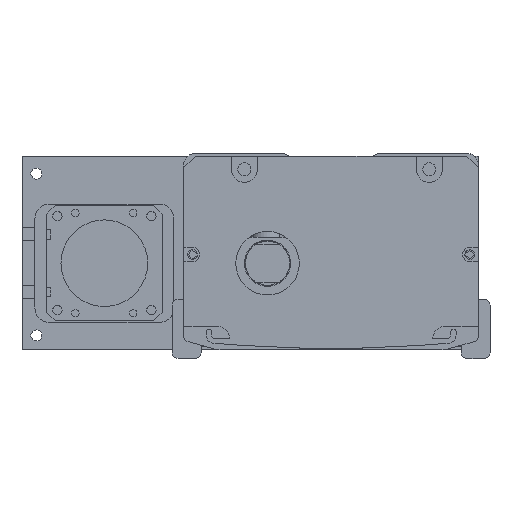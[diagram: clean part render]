
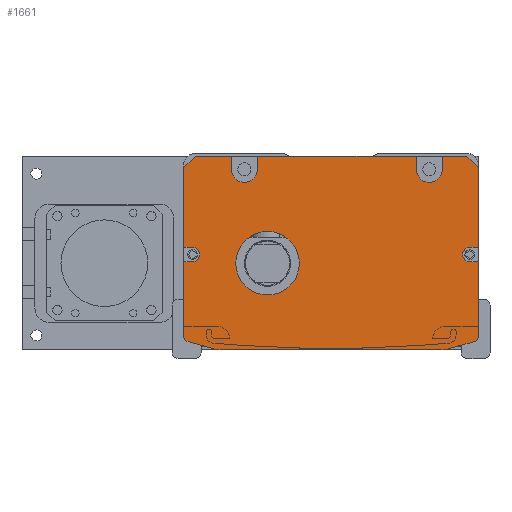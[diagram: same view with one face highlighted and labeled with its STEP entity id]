
A CAD part, front view. The second image highlights one B-rep face of the part: STEP entity #1661.
In plain terms, the highlighted planar face has unit normal (0, -1, 0).
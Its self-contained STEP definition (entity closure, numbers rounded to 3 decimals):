
#1661=ADVANCED_FACE('',(#4376,#4377),#2363,.F.);
#2363=PLANE('',#13967);
#2670=LINE('',#19574,#3477);
#2674=LINE('',#19582,#3481);
#2684=LINE('',#19603,#3491);
#2688=LINE('',#19611,#3495);
#2957=LINE('',#20604,#3764);
#2958=LINE('',#20606,#3765);
#2959=LINE('',#20608,#3766);
#2960=LINE('',#20612,#3767);
#2961=LINE('',#20614,#3768);
#2962=LINE('',#20616,#3769);
#2963=LINE('',#20620,#3770);
#2964=LINE('',#20622,#3771);
#2965=LINE('',#20624,#3772);
#2966=LINE('',#20625,#3773);
#2967=LINE('',#20629,#3774);
#2968=LINE('',#20632,#3775);
#2969=LINE('',#20636,#3776);
#2970=LINE('',#20640,#3777);
#2971=LINE('',#20643,#3778);
#2972=LINE('',#20647,#3779);
#3477=VECTOR('',#15289,1.);
#3481=VECTOR('',#15293,1.);
#3491=VECTOR('',#15305,1.);
#3495=VECTOR('',#15309,1.);
#3764=VECTOR('',#16374,1.);
#3765=VECTOR('',#16375,1.);
#3766=VECTOR('',#16376,1.);
#3767=VECTOR('',#16379,1.);
#3768=VECTOR('',#16380,1.);
#3769=VECTOR('',#16381,1.);
#3770=VECTOR('',#16384,1.);
#3771=VECTOR('',#16385,1.);
#3772=VECTOR('',#16386,1.);
#3773=VECTOR('',#16387,1.);
#3774=VECTOR('',#16390,1.);
#3775=VECTOR('',#16393,1.);
#3776=VECTOR('',#16396,1.);
#3777=VECTOR('',#16399,1.);
#3778=VECTOR('',#16402,1.);
#3779=VECTOR('',#16405,1.);
#4376=FACE_BOUND('',#5140,.T.);
#4377=FACE_BOUND('',#5141,.T.);
#5140=EDGE_LOOP('',(#7096,#7097,#7098,#7099,#7100,#7101,#7102,#7103,#7104,
#7105,#7106,#7107,#7108,#7109,#7110,#7111,#7112,#7113,#7114,#7115,#7116,
#7117,#7118,#7119,#7120,#7121,#7122,#7123));
#5141=EDGE_LOOP('',(#7124));
#7096=ORIENTED_EDGE('',*,*,#11100,.T.);
#7097=ORIENTED_EDGE('',*,*,#11584,.T.);
#7098=ORIENTED_EDGE('',*,*,#11585,.T.);
#7099=ORIENTED_EDGE('',*,*,#11586,.F.);
#7100=ORIENTED_EDGE('',*,*,#11587,.T.);
#7101=ORIENTED_EDGE('',*,*,#11588,.F.);
#7102=ORIENTED_EDGE('',*,*,#11589,.T.);
#7103=ORIENTED_EDGE('',*,*,#11590,.F.);
#7104=ORIENTED_EDGE('',*,*,#11591,.T.);
#7105=ORIENTED_EDGE('',*,*,#11592,.F.);
#7106=ORIENTED_EDGE('',*,*,#11593,.T.);
#7107=ORIENTED_EDGE('',*,*,#11594,.T.);
#7108=ORIENTED_EDGE('',*,*,#11118,.T.);
#7109=ORIENTED_EDGE('',*,*,#11595,.T.);
#7110=ORIENTED_EDGE('',*,*,#11596,.T.);
#7111=ORIENTED_EDGE('',*,*,#11597,.T.);
#7112=ORIENTED_EDGE('',*,*,#11114,.T.);
#7113=ORIENTED_EDGE('',*,*,#11598,.T.);
#7114=ORIENTED_EDGE('',*,*,#11599,.T.);
#7115=ORIENTED_EDGE('',*,*,#11600,.T.);
#7116=ORIENTED_EDGE('',*,*,#11601,.T.);
#7117=ORIENTED_EDGE('',*,*,#11602,.T.);
#7118=ORIENTED_EDGE('',*,*,#11603,.T.);
#7119=ORIENTED_EDGE('',*,*,#11604,.T.);
#7120=ORIENTED_EDGE('',*,*,#11104,.T.);
#7121=ORIENTED_EDGE('',*,*,#11605,.T.);
#7122=ORIENTED_EDGE('',*,*,#11606,.T.);
#7123=ORIENTED_EDGE('',*,*,#11607,.T.);
#7124=ORIENTED_EDGE('',*,*,#11608,.T.);
#9777=VERTEX_POINT('',#19573);
#9778=VERTEX_POINT('',#19575);
#9781=VERTEX_POINT('',#19581);
#9782=VERTEX_POINT('',#19583);
#9791=VERTEX_POINT('',#19602);
#9792=VERTEX_POINT('',#19604);
#9795=VERTEX_POINT('',#19610);
#9796=VERTEX_POINT('',#19612);
#10122=VERTEX_POINT('',#20605);
#10123=VERTEX_POINT('',#20607);
#10124=VERTEX_POINT('',#20609);
#10125=VERTEX_POINT('',#20611);
#10126=VERTEX_POINT('',#20613);
#10127=VERTEX_POINT('',#20615);
#10128=VERTEX_POINT('',#20617);
#10129=VERTEX_POINT('',#20619);
#10130=VERTEX_POINT('',#20621);
#10131=VERTEX_POINT('',#20623);
#10132=VERTEX_POINT('',#20626);
#10133=VERTEX_POINT('',#20628);
#10134=VERTEX_POINT('',#20631);
#10135=VERTEX_POINT('',#20633);
#10136=VERTEX_POINT('',#20635);
#10137=VERTEX_POINT('',#20637);
#10138=VERTEX_POINT('',#20639);
#10139=VERTEX_POINT('',#20641);
#10140=VERTEX_POINT('',#20644);
#10141=VERTEX_POINT('',#20646);
#10142=VERTEX_POINT('',#20649);
#11100=EDGE_CURVE('',#9778,#9777,#2670,.T.);
#11104=EDGE_CURVE('',#9782,#9781,#2674,.T.);
#11114=EDGE_CURVE('',#9792,#9791,#2684,.T.);
#11118=EDGE_CURVE('',#9796,#9795,#2688,.T.);
#11584=EDGE_CURVE('',#9777,#10122,#2957,.T.);
#11585=EDGE_CURVE('',#10122,#10123,#2958,.T.);
#11586=EDGE_CURVE('',#10124,#10123,#2959,.T.);
#11587=EDGE_CURVE('',#10124,#10125,#13008,.T.);
#11588=EDGE_CURVE('',#10126,#10125,#2960,.T.);
#11589=EDGE_CURVE('',#10126,#10127,#2961,.T.);
#11590=EDGE_CURVE('',#10128,#10127,#2962,.T.);
#11591=EDGE_CURVE('',#10128,#10129,#13009,.T.);
#11592=EDGE_CURVE('',#10130,#10129,#2963,.T.);
#11593=EDGE_CURVE('',#10130,#10131,#2964,.T.);
#11594=EDGE_CURVE('',#10131,#9796,#2965,.T.);
#11595=EDGE_CURVE('',#9795,#10132,#2966,.T.);
#11596=EDGE_CURVE('',#10132,#10133,#13010,.T.);
#11597=EDGE_CURVE('',#10133,#9792,#2967,.T.);
#11598=EDGE_CURVE('',#9791,#10134,#13011,.T.);
#11599=EDGE_CURVE('',#10134,#10135,#2968,.T.);
#11600=EDGE_CURVE('',#10135,#10136,#13012,.T.);
#11601=EDGE_CURVE('',#10136,#10137,#2969,.T.);
#11602=EDGE_CURVE('',#10137,#10138,#13013,.T.);
#11603=EDGE_CURVE('',#10138,#10139,#2970,.T.);
#11604=EDGE_CURVE('',#10139,#9782,#13014,.T.);
#11605=EDGE_CURVE('',#9781,#10140,#2971,.T.);
#11606=EDGE_CURVE('',#10140,#10141,#13015,.T.);
#11607=EDGE_CURVE('',#10141,#9778,#2972,.T.);
#11608=EDGE_CURVE('',#10142,#10142,#13016,.T.);
#13008=CIRCLE('',#13958,4.5);
#13009=CIRCLE('',#13959,4.5);
#13010=CIRCLE('',#13960,2.5);
#13011=CIRCLE('',#13961,2.);
#13012=CIRCLE('',#13962,10.);
#13013=CIRCLE('',#13963,10.);
#13014=CIRCLE('',#13964,2.);
#13015=CIRCLE('',#13965,2.5);
#13016=CIRCLE('',#13966,11.);
#13958=AXIS2_PLACEMENT_3D('',#20610,#16377,#16378);
#13959=AXIS2_PLACEMENT_3D('',#20618,#16382,#16383);
#13960=AXIS2_PLACEMENT_3D('',#20627,#16388,#16389);
#13961=AXIS2_PLACEMENT_3D('',#20630,#16391,#16392);
#13962=AXIS2_PLACEMENT_3D('',#20634,#16394,#16395);
#13963=AXIS2_PLACEMENT_3D('',#20638,#16397,#16398);
#13964=AXIS2_PLACEMENT_3D('',#20642,#16400,#16401);
#13965=AXIS2_PLACEMENT_3D('',#20645,#16403,#16404);
#13966=AXIS2_PLACEMENT_3D('',#20648,#16406,#16407);
#13967=AXIS2_PLACEMENT_3D('',#20650,#16408,#16409);
#15289=DIRECTION('',(0.,0.,1.));
#15293=DIRECTION('',(0.,0.,1.));
#15305=DIRECTION('',(0.,0.,-1.));
#15309=DIRECTION('',(0.,0.,-1.));
#16374=DIRECTION('',(-0.707,0.,0.707));
#16375=DIRECTION('',(-1.,0.,0.));
#16376=DIRECTION('',(0.,0.,1.));
#16377=DIRECTION('',(0.,1.,0.));
#16378=DIRECTION('',(0.,0.,1.));
#16379=DIRECTION('',(0.,0.,-1.));
#16380=DIRECTION('',(-1.,0.,0.));
#16381=DIRECTION('',(0.,0.,1.));
#16382=DIRECTION('',(0.,1.,0.));
#16383=DIRECTION('',(0.,0.,1.));
#16384=DIRECTION('',(0.,0.,-1.));
#16385=DIRECTION('',(-1.,0.,0.));
#16386=DIRECTION('',(-0.707,0.,-0.707));
#16387=DIRECTION('',(1.,0.,0.));
#16388=DIRECTION('',(0.,1.,0.));
#16389=DIRECTION('',(0.,0.,1.));
#16390=DIRECTION('',(-1.,0.,0.));
#16391=DIRECTION('',(0.,-1.,0.));
#16392=DIRECTION('',(0.,0.,1.));
#16393=DIRECTION('',(0.963,0.,-0.269));
#16394=DIRECTION('',(0.,-1.,0.));
#16395=DIRECTION('',(0.,0.,1.));
#16396=DIRECTION('',(1.,0.,0.));
#16397=DIRECTION('',(0.,-1.,0.));
#16398=DIRECTION('',(0.,0.,-1.));
#16399=DIRECTION('',(0.963,0.,0.269));
#16400=DIRECTION('',(0.,-1.,0.));
#16401=DIRECTION('',(0.,0.,-1.));
#16402=DIRECTION('',(-1.,0.,0.));
#16403=DIRECTION('',(0.,1.,0.));
#16404=DIRECTION('',(0.,0.,1.));
#16405=DIRECTION('',(1.,0.,0.));
#16406=DIRECTION('',(0.,1.,0.));
#16407=DIRECTION('',(0.,0.,1.));
#16408=DIRECTION('',(0.,1.,0.));
#16409=DIRECTION('',(1.,0.,0.));
#19573=CARTESIAN_POINT('',(47.808,-767.5,-5.));
#19574=CARTESIAN_POINT('',(47.808,-767.5,-1.));
#19575=CARTESIAN_POINT('',(47.808,-767.5,-32.5));
#19581=CARTESIAN_POINT('',(47.808,-767.5,-37.5));
#19582=CARTESIAN_POINT('',(47.808,-767.5,-1.));
#19583=CARTESIAN_POINT('',(47.808,-767.5,-63.212));
#19602=CARTESIAN_POINT('',(-54.192,-767.5,-63.212));
#19603=CARTESIAN_POINT('',(-54.192,-767.5,-62.));
#19604=CARTESIAN_POINT('',(-54.192,-767.5,-37.5));
#19610=CARTESIAN_POINT('',(-54.192,-767.5,-32.5));
#19611=CARTESIAN_POINT('',(-54.192,-767.5,-62.));
#19612=CARTESIAN_POINT('',(-54.192,-767.5,-5.));
#20604=CARTESIAN_POINT('',(43.808,-767.5,-1.));
#20605=CARTESIAN_POINT('',(43.808,-767.5,-1.));
#20606=CARTESIAN_POINT('',(-3.192,-767.5,-1.));
#20607=CARTESIAN_POINT('',(35.308,-767.5,-1.));
#20608=CARTESIAN_POINT('',(35.308,-767.5,-1.));
#20609=CARTESIAN_POINT('',(35.308,-767.5,-5.5));
#20610=CARTESIAN_POINT('',(30.808,-767.5,-5.5));
#20611=CARTESIAN_POINT('',(26.308,-767.5,-5.5));
#20612=CARTESIAN_POINT('',(26.308,-767.5,-1.));
#20613=CARTESIAN_POINT('',(26.308,-767.5,-1.));
#20614=CARTESIAN_POINT('',(-54.192,-767.5,-1.));
#20615=CARTESIAN_POINT('',(-28.692,-767.5,-1.));
#20616=CARTESIAN_POINT('',(-28.692,-767.5,-3.5));
#20617=CARTESIAN_POINT('',(-28.692,-767.5,-5.5));
#20618=CARTESIAN_POINT('',(-33.192,-767.5,-5.5));
#20619=CARTESIAN_POINT('',(-37.692,-767.5,-5.5));
#20620=CARTESIAN_POINT('',(-37.692,-767.5,-1.));
#20621=CARTESIAN_POINT('',(-37.692,-767.5,-1.));
#20622=CARTESIAN_POINT('',(-54.192,-767.5,-1.));
#20623=CARTESIAN_POINT('',(-50.192,-767.5,-1.));
#20624=CARTESIAN_POINT('',(-54.192,-767.5,-5.));
#20625=CARTESIAN_POINT('',(-3.192,-767.5,-32.5));
#20626=CARTESIAN_POINT('',(-51.192,-767.5,-32.5));
#20627=CARTESIAN_POINT('',(-51.192,-767.5,-35.));
#20628=CARTESIAN_POINT('',(-51.192,-767.5,-37.5));
#20629=CARTESIAN_POINT('',(-3.192,-767.5,-37.5));
#20630=CARTESIAN_POINT('',(-52.192,-767.5,-63.212));
#20631=CARTESIAN_POINT('',(-52.731,-767.5,-65.138));
#20632=CARTESIAN_POINT('',(-55.807,-767.5,-64.279));
#20633=CARTESIAN_POINT('',(-43.809,-767.5,-67.631));
#20634=CARTESIAN_POINT('',(-41.118,-767.5,-58.));
#20635=CARTESIAN_POINT('',(-41.118,-767.5,-68.));
#20636=CARTESIAN_POINT('',(-54.692,-767.5,-68.));
#20637=CARTESIAN_POINT('',(34.733,-767.5,-68.));
#20638=CARTESIAN_POINT('',(34.733,-767.5,-58.));
#20639=CARTESIAN_POINT('',(37.424,-767.5,-67.631));
#20640=CARTESIAN_POINT('',(49.422,-767.5,-64.279));
#20641=CARTESIAN_POINT('',(46.346,-767.5,-65.138));
#20642=CARTESIAN_POINT('',(45.808,-767.5,-63.212));
#20643=CARTESIAN_POINT('',(-3.192,-767.5,-37.5));
#20644=CARTESIAN_POINT('',(44.808,-767.5,-37.5));
#20645=CARTESIAN_POINT('',(44.808,-767.5,-35.));
#20646=CARTESIAN_POINT('',(44.808,-767.5,-32.5));
#20647=CARTESIAN_POINT('',(-3.192,-767.5,-32.5));
#20648=CARTESIAN_POINT('',(-25.192,-767.5,-38.));
#20649=CARTESIAN_POINT('',(-25.192,-767.5,-27.));
#20650=CARTESIAN_POINT('',(-3.192,-767.5,-1.));
